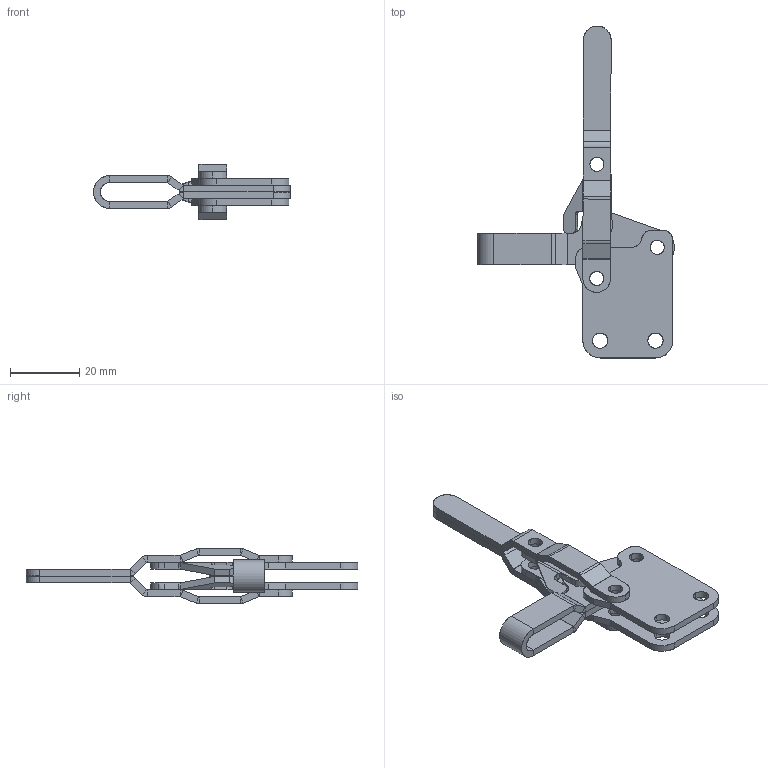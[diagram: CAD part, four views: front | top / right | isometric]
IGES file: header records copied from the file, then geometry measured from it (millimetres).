
Start section: SolidWorks IGES file using analytic representation for surfaces
Global section: file name: D:\GH Files\GH-SW-FILES\GH1\GH-10725-B\10751B\GH-10751-B.IGS; native system: SolidWorks 2006 by SolidWorks Corporation; preprocessor: SolidWorks 2006 by SolidWorks Corporation; author: Administrator; date: 060825.162215; units: millimetre
Bounding box: 56.96 x 95.98 x 16 mm (x, y, z)
Surface area: 11430.3 mm2 (no closed solid volume)
Topology: 0 solids, 0 shells, 281 faces, 3246 edges, 3246 vertices
Faces by surface type: bspline 172, revolution 109
